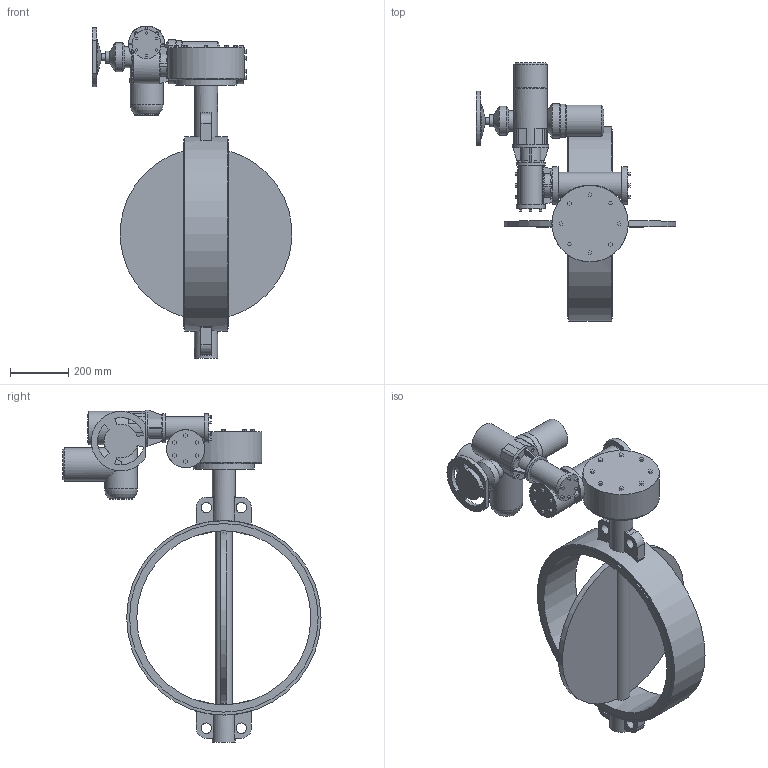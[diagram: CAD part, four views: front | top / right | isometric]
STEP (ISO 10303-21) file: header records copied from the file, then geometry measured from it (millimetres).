
FILE_DESCRIPTION(('STEP AP203'), '1');
FILE_NAME('青蜮铕 017W.YS_DN600_PN16_MT903.A07', '', ('UNSPECIFIED'), ('UNSPECIFIED'), 'ASCON STEP Converter 1.6', 'ASCON Math Kernel', '');
FILE_SCHEMA(('CONFIG_CONTROL_DESIGN'));
Length unit declared in the file: millimetre
Bounding box: 687.14 x 889.5 x 1144.5 mm (x, y, z)
Volume: 37777961.5 mm3; surface area: 2276766.8 mm2
Topology: 1 solids, 1 shells, 564 faces, 1455 edges, 953 vertices
Faces by surface type: plane 432, cylinder 89, torus 24, cone 17, bspline 2
Full cylindrical faces by diameter (mm): 8.5 x4, 12 x4, 17.294 x4, 22 x4, 24 x1, 36 x4, 42 x1, 60 x1, 66 x1, 72 x1, 80 x4, 91 x1, 100 x3, 108 x1, 114 x1, 115 x1, 116 x2, 119 x1, 125 x1, 131 x3, 210 x1, 263 x1, 600 x1, 650 x2, 670 x1
Entity records: 25115 total; most frequent: CARTESIAN_POINT 7030, ORIENTED_EDGE 2756, DIRECTION 2670, EDGE_CURVE 1378, LINE 1014, VECTOR 1014, VERTEX_POINT 949, AXIS2_PLACEMENT_3D 828
